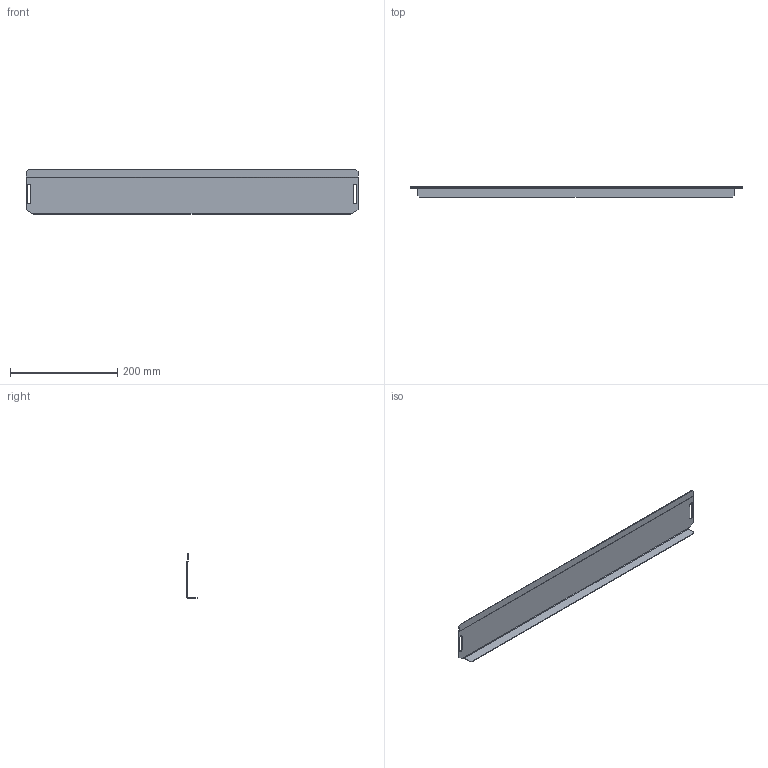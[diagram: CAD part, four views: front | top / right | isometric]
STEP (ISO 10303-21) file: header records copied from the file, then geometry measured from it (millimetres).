
FILE_DESCRIPTION (( 'STEP AP214' ), '1' );
FILE_NAME ('PKV 80 P Ïàíåëü ïîäâèæíàÿ.STEP', '2021-05-24T10:01:44', ( '' ), ( '' ), 'SwSTEP 2.0', 'SolidWorks 2018', '' );
FILE_SCHEMA (( 'AUTOMOTIVE_DESIGN' ));
Length unit declared in the file: millimetre
Products named in the file (1): PKV 80 P Ïàíåëü ïîäâèæíàÿ
Bounding box: 620.5 x 19 x 83.6 mm (x, y, z)
Volume: 74155.5 mm3; surface area: 125488.8 mm2
Topology: 1 solids, 1 shells, 42 faces, 100 edges, 60 vertices
Faces by surface type: plane 28, cylinder 12, bspline 2
Entity records: 1286 total; most frequent: CARTESIAN_POINT 285, ORIENTED_EDGE 200, DIRECTION 194, EDGE_CURVE 100, VECTOR 72, LINE 72, AXIS2_PLACEMENT_3D 61, VERTEX_POINT 60
